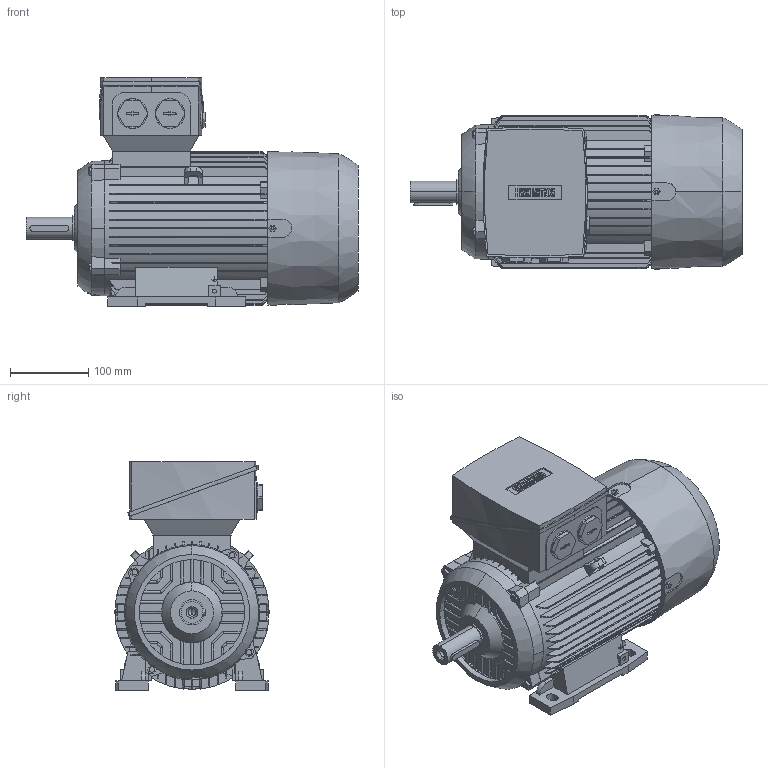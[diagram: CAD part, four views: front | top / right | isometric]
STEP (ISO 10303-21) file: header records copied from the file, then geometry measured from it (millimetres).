
FILE_DESCRIPTION(('STEP AP214'),'1');
FILE_NAME('cctmp_01F820AC-585C-4776-BFBD-108384B52904_2026_04_15_12_53_48_0386_47208..stp','2026-04-15T10:53:49',('KiM GmbH'),('CADClick - www.CADClick.com'),'Spatial InterOp 3D',' ','unknown authorization');
FILE_SCHEMA(('AUTOMOTIVE_DESIGN'));
Length unit declared in the file: millimetre
Products named in the file (1): 2026_04_15_12_53_48_0385
Bounding box: 425.5 x 198 x 293 mm (x, y, z)
Volume: 11416032.6 mm3; surface area: 581327.4 mm2
Topology: 1 solids, 1 shells, 1185 faces, 3354 edges, 2207 vertices
Faces by surface type: plane 749, cylinder 278, torus 124, cone 34
Entity records: 54096 total; most frequent: CARTESIAN_POINT 14190, ORIENTED_EDGE 6704, DIRECTION 6003, EDGE_CURVE 3352, VERTEX_POINT 2207, LINE 2005, VECTOR 2005, AXIS2_PLACEMENT_3D 1999
